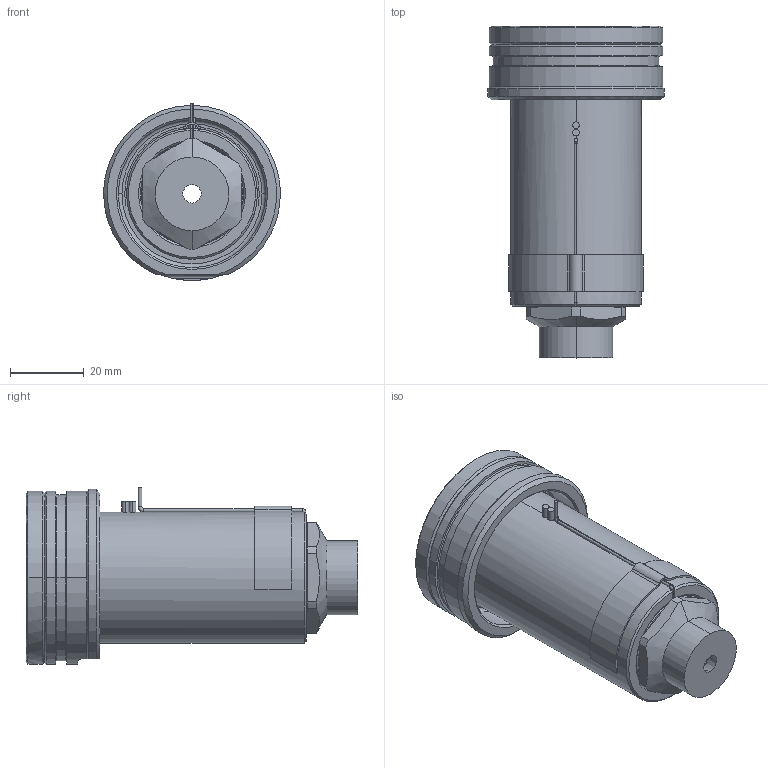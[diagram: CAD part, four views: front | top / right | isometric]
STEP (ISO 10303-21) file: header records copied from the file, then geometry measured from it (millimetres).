
FILE_DESCRIPTION((''),'2;1');
FILE_NAME('EO16_VG-FB_WR_070_SW','2024-02-19T13:44:51',('sundharh'),(''),'CREO PARAMETRIC BY PTC INC, 2023154','CREO PARAMETRIC BY PTC INC, 2023154','');
FILE_SCHEMA(('CONFIG_CONTROL_DESIGN'));
Length unit declared in the file: millimetre
Products named in the file (1): EO16_VG-FB_WR_070_SW
Bounding box: 47.97 x 90 x 48 mm (x, y, z)
Volume: 76773.1 mm3; surface area: 23013.4 mm2
Topology: 1 solids, 1 shells, 197 faces, 474 edges, 286 vertices
Faces by surface type: cylinder 72, plane 47, cone 39, torus 24, bspline 13, sphere 2
Entity records: 6569 total; most frequent: CARTESIAN_POINT 1889, DIRECTION 1054, ORIENTED_EDGE 936, EDGE_CURVE 468, AXIS2_PLACEMENT_3D 442, VERTEX_POINT 286, CIRCLE 258, EDGE_LOOP 214
